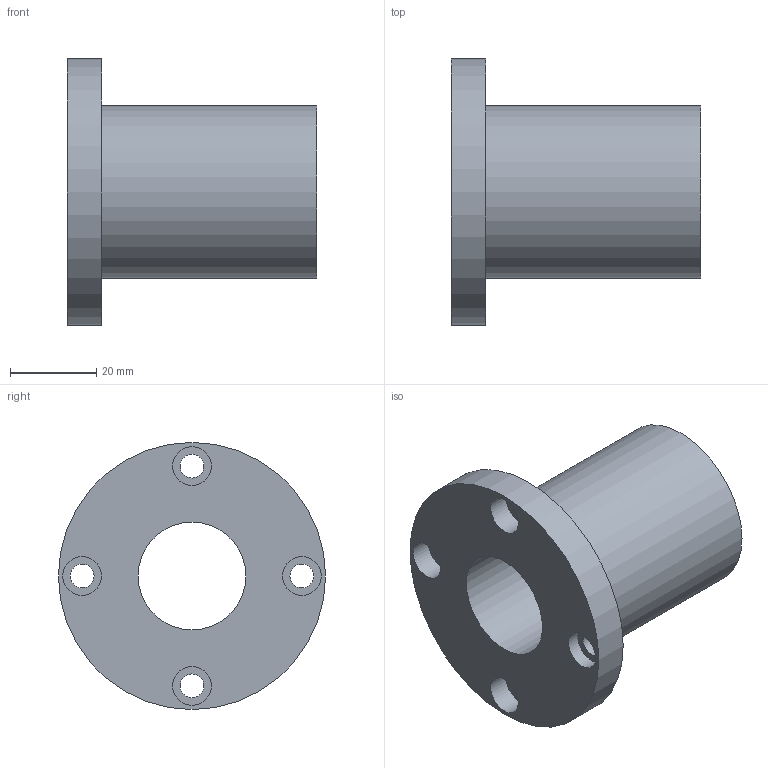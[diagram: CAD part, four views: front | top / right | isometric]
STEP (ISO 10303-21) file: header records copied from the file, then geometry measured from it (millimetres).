
FILE_DESCRIPTION( ( 'STEP AP203' ), '1' );
FILE_NAME( 'p:/temp/worker_7/temp/exporttempdir_3240_289_WxAP1/format_0/LMEF25UU.stp', '2020-05-07T03:20:17', ( 'License CC BY-ND 4.0' ), ( 'CADENAS' ), ' ', 'PARTsolutions', ' ' );
FILE_SCHEMA( ( 'CONFIG_CONTROL_DESIGN' ) );
Length unit declared in the file: millimetre
Products named in the file (1): _LMEF25UU
Bounding box: 58 x 62 x 62 mm (x, y, z)
Volume: 57020.1 mm3; surface area: 18018.3 mm2
Topology: 1 solids, 1 shells, 18 faces, 34 edges, 23 vertices
Faces by surface type: cylinder 11, plane 7
Full cylindrical faces by diameter (mm): 5.5 x4, 9 x4, 25 x1, 40 x1, 62 x1
Entity records: 468 total; most frequent: DIRECTION 82, CARTESIAN_POINT 63, EDGE_LOOP 44, ORIENTED_EDGE 44, AXIS2_PLACEMENT_3D 41, FACE_OUTER_BOUND 29, EDGE_CURVE 22, VERTEX_POINT 22
